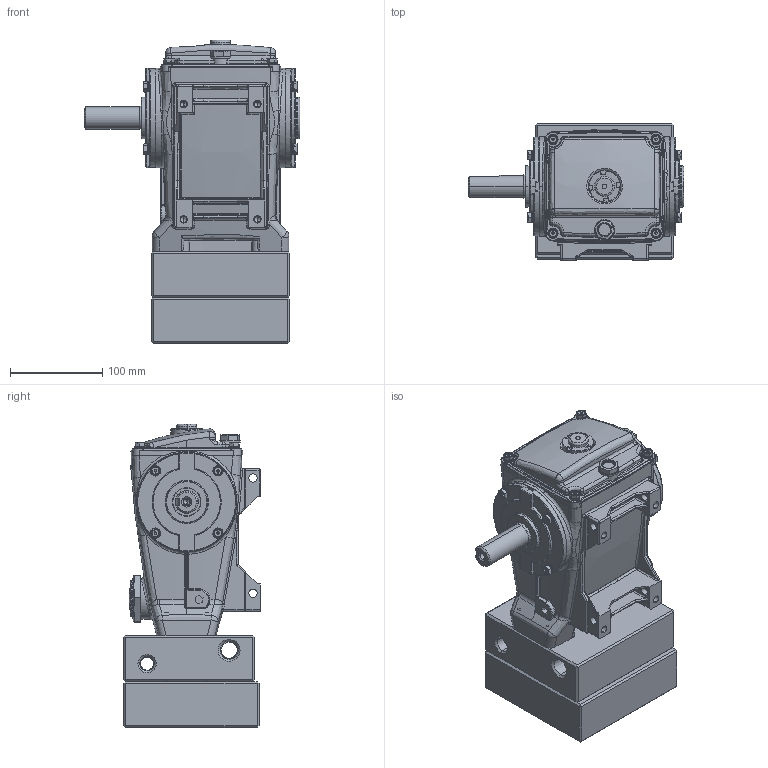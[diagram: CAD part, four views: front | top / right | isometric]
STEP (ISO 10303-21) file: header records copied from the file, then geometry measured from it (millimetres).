
FILE_DESCRIPTION (( 'STEP AP214' ), '1' );
FILE_NAME ('781-.STEP', '2012-11-23T12:07:31', ( '' ), ( '' ), 'SwSTEP 2.0', 'SolidWorks 2012', '' );
FILE_SCHEMA (( 'AUTOMOTIVE_DESIGN' ));
Length unit declared in the file: millimetre
Products named in the file (1): 781-
Bounding box: 234 x 148.5 x 329.3 mm (x, y, z)
Volume: 3015475.5 mm3; surface area: 527983.2 mm2
Topology: 1 solids, 36 shells, 3570 faces, 8901 edges, 5591 vertices
Faces by surface type: plane 1522, cylinder 877, bspline 531, torus 305, cone 293, sphere 42
Entity records: 157405 total; most frequent: CARTESIAN_POINT 49374, ORIENTED_EDGE 17612, DIRECTION 16067, EDGE_CURVE 8806, AXIS2_PLACEMENT_3D 5809, VERTEX_POINT 5589, LINE 4449, VECTOR 4449
